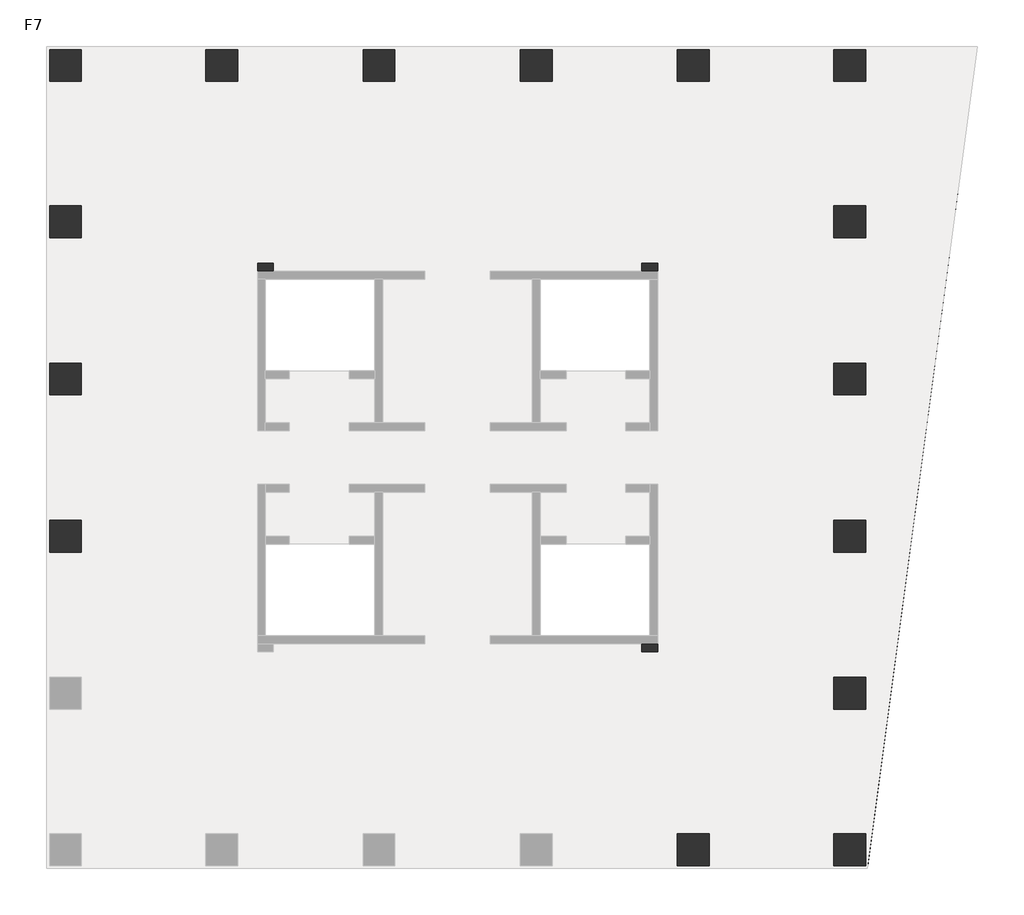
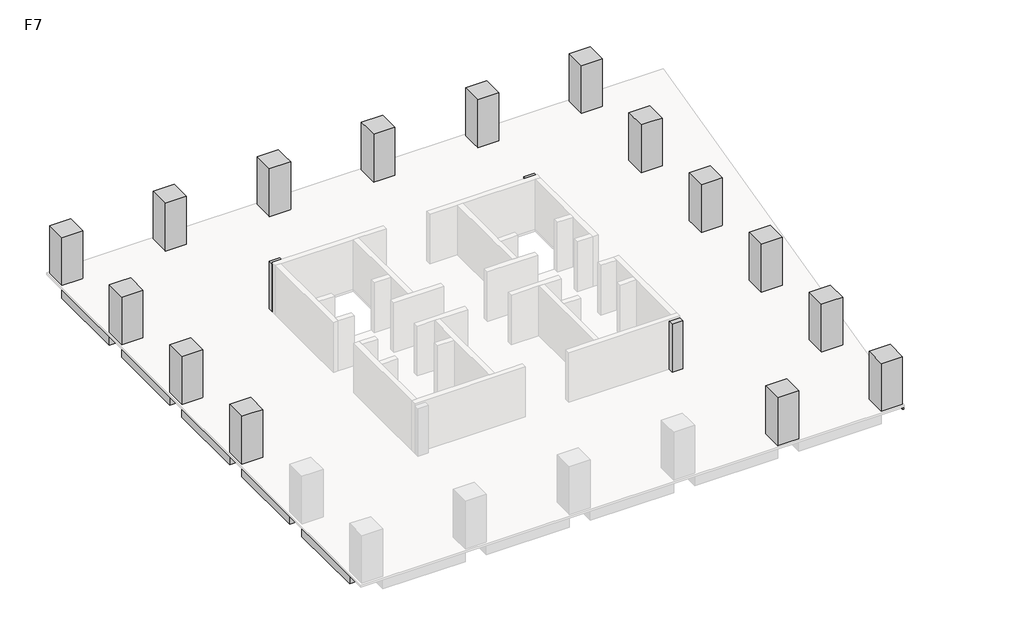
# One storey, part 2 of 2: 21 beams, 18 columns.
"""IFC4 building model written with IfcOpenShell, lengths in millimetres."""

from ifc_helpers import new_model, si_unit, frame, origin, place, context, project, spatial, polyline, outline, extrude, faceted_brep, element, save

model = new_model("IFC4")

# Units and contexts
model_context = context("Model", 3, world=origin())
ifc_project = project(units=[si_unit("LENGTHUNIT", "METRE", prefix="MILLI")], contexts=[model_context])

# Site, building, storey
site = spatial("IfcSite", under=ifc_project)
building = spatial("IfcBuilding", under=site)
storey = spatial("IfcBuildingStorey", under=building, Name="F7", Elevation=28000.0)

# Beams
placement = place(None, origin())
element("IfcBeam", 1, ObjectType="混凝土 - 矩形梁 : KL(5)-800x1000", at=placement, inside=storey, context=model_context, shape_type="SweptSolid", body=[
    extrude(outline(polyline([(25327.3257831, 27051.0498658), (25327.3257831, 26251.0498658), (19077.3257831, 26251.0498658), (19077.3257831, 27051.0498658), (25327.3257831, 27051.0498658)])), frame((0.0, 0.0, 27000.0), z_axis=(0.0, 0.0, 1.0), x_axis=(1.0, 0.0, 0.0)), (0.0, 0.0, 1.0), 840.0),
    extrude(outline(polyline([(-12472.6742169, 26251.0498658), (-12472.6742169, 27051.0498658), (-6222.6742169, 27051.0498658), (-6222.6742169, 26251.0498658), (-12472.6742169, 26251.0498658)])), frame((0.0, 0.0, 27000.0), z_axis=(0.0, 0.0, 1.0), x_axis=(1.0, 0.0, 0.0)), (0.0, 0.0, 1.0), 840.0),
    extrude(outline(polyline([(-4622.6742169, 26251.0498658), (-4622.6742169, 27051.0498658), (1677.3257831, 27051.0498658), (1677.3257831, 26251.0498658), (-4622.6742169, 26251.0498658)])), frame((0.0, 0.0, 27000.0), z_axis=(0.0, 0.0, 1.0), x_axis=(1.0, 0.0, 0.0)), (0.0, 0.0, 1.0), 840.0),
    extrude(outline(polyline([(3277.3257831, 26251.0498658), (3277.3257831, 27051.0498658), (9577.3257831, 27051.0498658), (9577.3257831, 26251.0498658), (3277.3257831, 26251.0498658)])), frame((0.0, 0.0, 27000.0), z_axis=(0.0, 0.0, 1.0), x_axis=(1.0, 0.0, 0.0)), (0.0, 0.0, 1.0), 840.0),
    extrude(outline(polyline([(11177.3257831, 26251.0498658), (11177.3257831, 27051.0498658), (17477.3257831, 27051.0498658), (17477.3257831, 26251.0498658), (11177.3257831, 26251.0498658)])), frame((0.0, 0.0, 27000.0), z_axis=(0.0, 0.0, 1.0), x_axis=(1.0, 0.0, 0.0)), (0.0, 0.0, 1.0), 840.0),
])
element("IfcBeam", 2, ObjectType="混凝土 - 矩形梁 : KL(5)-800x1000", at=placement, inside=storey, context=model_context, shape_type="Brep", body=[
    faceted_brep([(26927.3257831, 26251.0498658, 27000.0), (32422.0087099, 26251.0498658, 27000.0), (32422.0087099, 26251.0498658, 27840.0), (32018.4257091, 26251.0498658, 27840.0), (26927.3257831, 26251.0498658, 27840.0), (32422.0087099, 27051.0498658, 27000.0), (26927.3257831, 27051.0498658, 27000.0), (26927.3257831, 27051.0498658, 27840.0), (32422.0087099, 27051.0498658, 27840.0)], [[[0, 1, 2, 3, 4]], [[5, 1, 0, 6]], [[5, 6, 7, 8]], [[1, 5, 8, 2]], [[6, 0, 4, 7]], [[4, 3, 2, 8, 7]]]),
])
element("IfcBeam", 3, ObjectType="混凝土 - 矩形梁 : KL(5)-800x1000", at=placement, inside=storey, context=model_context, shape_type="Brep", body=[
    faceted_brep([(26127.3257831, -6098.9501342, 27000.0), (26127.3257831, -12348.9501342, 27000.0), (26127.3257831, -12348.9501342, 27840.0), (26127.3257831, -6098.9501342, 27840.0), (26927.3257831, -12348.9501342, 27000.0), (26927.3257831, -6098.9501342, 27000.0), (26927.3257831, -6098.9501342, 27840.0), (26927.3257831, -11700.7859463, 27840.0), (26927.3257831, -12348.9501342, 27840.0)], [[[0, 1, 2, 3]], [[4, 1, 0, 5]], [[4, 5, 6, 7, 8]], [[1, 4, 8, 2]], [[5, 0, 3, 6]], [[3, 2, 8, 7, 6]]]),
    faceted_brep([(26927.3257831, 25451.0498658, 27000.0), (26127.3257831, 25451.0498658, 27000.0), (26127.3257831, 25451.0498658, 27840.0), (26927.3257831, 25451.0498658, 27840.0), (26127.3257831, 19201.0498658, 27000.0), (26927.3257831, 19201.0498658, 27000.0), (26927.3257831, 19201.0498658, 27840.0), (26127.3257831, 19201.0498658, 27840.0)], [[[0, 1, 2, 3]], [[4, 5, 6, 7]], [[1, 4, 7, 2]], [[1, 0, 5, 4]], [[5, 0, 3, 6]], [[3, 2, 7, 6]]]),
    faceted_brep([(26927.3257831, 17601.0498658, 27000.0), (26127.3257831, 17601.0498658, 27000.0), (26127.3257831, 17601.0498658, 27840.0), (26927.3257831, 17601.0498658, 27840.0), (26127.3257831, 11301.0498658, 27000.0), (26927.3257831, 11301.0498658, 27000.0), (26927.3257831, 11301.0498658, 27840.0), (26127.3257831, 11301.0498658, 27840.0)], [[[0, 1, 2, 3]], [[4, 5, 6, 7]], [[1, 4, 7, 2]], [[1, 0, 5, 4]], [[5, 0, 3, 6]], [[3, 2, 7, 6]]]),
    faceted_brep([(26927.3257831, 9701.0498658, 27000.0), (26127.3257831, 9701.0498658, 27000.0), (26127.3257831, 9701.0498658, 27840.0), (26927.3257831, 9701.0498658, 27840.0), (26127.3257831, 3401.0498658, 27000.0), (26927.3257831, 3401.0498658, 27000.0), (26927.3257831, 3401.0498658, 27840.0), (26127.3257831, 3401.0498658, 27840.0)], [[[0, 1, 2, 3]], [[4, 5, 6, 7]], [[1, 4, 7, 2]], [[1, 0, 5, 4]], [[5, 0, 3, 6]], [[3, 2, 7, 6]]]),
    faceted_brep([(26927.3257831, 1801.0498658, 27000.0), (26127.3257831, 1801.0498658, 27000.0), (26127.3257831, 1801.0498658, 27840.0), (26927.3257831, 1801.0498658, 27840.0), (26127.3257831, -4498.9501342, 27000.0), (26927.3257831, -4498.9501342, 27000.0), (26927.3257831, -4498.9501342, 27840.0), (26127.3257831, -4498.9501342, 27840.0)], [[[0, 1, 2, 3]], [[4, 5, 6, 7]], [[1, 4, 7, 2]], [[1, 0, 5, 4]], [[5, 0, 3, 6]], [[3, 2, 7, 6]]]),
])
element("IfcBeam", 4, ObjectType="混凝土 - 矩形梁 : KL(5)-800x1000", at=placement, inside=storey, context=model_context, shape_type="SweptSolid", body=[
    extrude(outline(polyline([(-14072.6742169, 25451.0498658), (-13272.6742169, 25451.0498658), (-13272.6742169, 19201.0498658), (-14072.6742169, 19201.0498658), (-14072.6742169, 25451.0498658)])), frame((0.0, 0.0, 27000.0), z_axis=(0.0, 0.0, 1.0), x_axis=(1.0, 0.0, 0.0)), (0.0, 0.0, 1.0), 840.0),
    extrude(outline(polyline([(-13272.6742169, -12348.9501342), (-14072.6742169, -12348.9501342), (-14072.6742169, -6098.9501342), (-13272.6742169, -6098.9501342), (-13272.6742169, -12348.9501342)])), frame((0.0, 0.0, 27000.0), z_axis=(0.0, 0.0, 1.0), x_axis=(1.0, 0.0, 0.0)), (0.0, 0.0, 1.0), 840.0),
    extrude(outline(polyline([(-14072.6742169, 17601.0498658), (-13272.6742169, 17601.0498658), (-13272.6742169, 11301.0498658), (-14072.6742169, 11301.0498658), (-14072.6742169, 17601.0498658)])), frame((0.0, 0.0, 27000.0), z_axis=(0.0, 0.0, 1.0), x_axis=(1.0, 0.0, 0.0)), (0.0, 0.0, 1.0), 840.0),
    extrude(outline(polyline([(-14072.6742169, 9701.0498658), (-13272.6742169, 9701.0498658), (-13272.6742169, 3401.0498658), (-14072.6742169, 3401.0498658), (-14072.6742169, 9701.0498658)])), frame((0.0, 0.0, 27000.0), z_axis=(0.0, 0.0, 1.0), x_axis=(1.0, 0.0, 0.0)), (0.0, 0.0, 1.0), 840.0),
    extrude(outline(polyline([(-14072.6742169, 1801.0498658), (-13272.6742169, 1801.0498658), (-13272.6742169, -4498.9501342), (-14072.6742169, -4498.9501342), (-14072.6742169, 1801.0498658)])), frame((0.0, 0.0, 27000.0), z_axis=(0.0, 0.0, 1.0), x_axis=(1.0, 0.0, 0.0)), (0.0, 0.0, 1.0), 840.0),
])
element("IfcBeam", 5, ObjectType="混凝土 - 矩形梁 : L1-800x500", at=placement, inside=storey, context=model_context, shape_type="SweptSolid", body=[
    extrude(outline(polyline([(-12472.6742169, 2201.0498658), (-12472.6742169, 3001.0498658), (-3622.6742169, 3001.0498658), (-3622.6742169, 2201.0498658), (-12472.6742169, 2201.0498658)])), frame((0.0, 0.0, 27500.0), z_axis=(0.0, 0.0, 1.0), x_axis=(1.0, 0.0, 0.0)), (0.0, 0.0, 1.0), 340.0),
])
element("IfcBeam", 6, ObjectType="混凝土 - 矩形梁 : L1-800x500", at=placement, inside=storey, context=model_context, shape_type="SweptSolid", body=[
    extrude(outline(polyline([(-12472.6742169, 10101.0498658), (-12472.6742169, 10901.0498658), (-3622.6742169, 10901.0498658), (-3622.6742169, 10101.0498658), (-12472.6742169, 10101.0498658)])), frame((0.0, 0.0, 27500.0), z_axis=(0.0, 0.0, 1.0), x_axis=(1.0, 0.0, 0.0)), (0.0, 0.0, 1.0), 340.0),
])
element("IfcBeam", 7, ObjectType="混凝土 - 矩形梁 : L1-800x500", at=placement, inside=storey, context=model_context, shape_type="Brep", body=[
    faceted_brep([(-12472.6742169, 17789.85471, 27500.0), (-3622.6742169, 15588.3621727, 27500.0), (-3622.6742169, 15588.3621727, 27840.0), (-12472.6742169, 17789.85471, 27840.0), (-3173.6696907, 16301.0498658, 27500.0), (-3622.6742169, 16301.0498658, 27500.0), (-3622.6742169, 15901.0498658, 27500.0), (-12472.6742169, 18614.2350714, 27500.0), (-3746.9473979, 16443.6562607, 27500.0), (-12472.6742169, 18614.2350714, 27840.0), (-3746.9473979, 16443.6562607, 27840.0), (-3173.6696907, 16301.0498658, 27840.0), (-3622.6742169, 16301.0498658, 27840.0)], [[[0, 1, 2, 3]], [[4, 5, 6, 1, 0, 7, 8]], [[4, 8, 7, 9, 10, 11]], [[6, 5, 12, 2, 1]], [[5, 4, 11, 12]], [[7, 0, 3, 9]], [[3, 2, 12, 11, 10, 9]]]),
])
element("IfcBeam", 8, ObjectType="混凝土 - 矩形梁 : L1-800x500", at=placement, inside=storey, context=model_context, shape_type="SweptSolid", body=[
    extrude(outline(polyline([(-3173.6696907, 16301.0498658), (-3746.9473979, 16443.6562607), (-5661.5624638, 25451.0498658), (-4843.6893517, 25451.0498658), (-2898.7618154, 16301.0498658), (-3173.6696907, 16301.0498658)])), frame((0.0, 0.0, 27500.0), z_axis=(0.0, 0.0, 1.0), x_axis=(1.0, 0.0, 0.0)), (0.0, 0.0, 1.0), 340.0),
])
element("IfcBeam", 9, ObjectType="混凝土 - 矩形梁 : L1-800x500", at=placement, inside=storey, context=model_context, shape_type="SweptSolid", body=[
    extrude(outline(polyline([(2077.3257831, 25451.0498658), (2877.3257831, 25451.0498658), (2877.3257831, 15901.0498658), (2077.3257831, 15901.0498658), (2077.3257831, 25451.0498658)])), frame((0.0, 0.0, 27500.0), z_axis=(0.0, 0.0, 1.0), x_axis=(1.0, 0.0, 0.0)), (0.0, 0.0, 1.0), 340.0),
])
element("IfcBeam", 10, ObjectType="混凝土 - 矩形梁 : L1-800x500", at=placement, inside=storey, context=model_context, shape_type="SweptSolid", body=[
    extrude(outline(polyline([(9977.3257831, 25451.0498658), (10777.3257831, 25451.0498658), (10777.3257831, 15901.0498658), (9977.3257831, 15901.0498658), (9977.3257831, 25451.0498658)])), frame((0.0, 0.0, 27500.0), z_axis=(0.0, 0.0, 1.0), x_axis=(1.0, 0.0, 0.0)), (0.0, 0.0, 1.0), 340.0),
])
element("IfcBeam", 11, ObjectType="混凝土 - 矩形梁 : L1-800x500", at=placement, inside=storey, context=model_context, shape_type="Brep", body=[
    faceted_brep([(25327.3257831, -4687.7549784, 27500.0), (16477.3257831, -2486.2624411, 27500.0), (16477.3257831, -2486.2624411, 27840.0), (25327.3257831, -4687.7549784, 27840.0), (16028.3212569, -3198.9501342, 27500.0), (16477.3257831, -3198.9501342, 27500.0), (16477.3257831, -2798.9501342, 27500.0), (25327.3257831, -5512.1353397, 27500.0), (16601.5989641, -3341.556529, 27500.0), (25327.3257831, -5512.1353397, 27840.0), (16601.5989641, -3341.556529, 27840.0), (16028.3212569, -3198.9501342, 27840.0), (16477.3257831, -3198.9501342, 27840.0)], [[[0, 1, 2, 3]], [[4, 5, 6, 1, 0, 7, 8]], [[4, 8, 7, 9, 10, 11]], [[6, 5, 12, 2, 1]], [[5, 4, 11, 12]], [[7, 0, 3, 9]], [[3, 2, 12, 11, 10, 9]]]),
])
element("IfcBeam", 12, ObjectType="混凝土 - 矩形梁 : L1-800x500", at=placement, inside=storey, context=model_context, shape_type="SweptSolid", body=[
    extrude(outline(polyline([(16028.3212569, -3198.9501342), (16601.5989641, -3341.556529), (18516.21403, -12348.9501342), (17698.3409179, -12348.9501342), (15753.4133817, -3198.9501342), (16028.3212569, -3198.9501342)])), frame((0.0, 0.0, 27500.0), z_axis=(0.0, 0.0, 1.0), x_axis=(1.0, 0.0, 0.0)), (0.0, 0.0, 1.0), 340.0),
])
element("IfcBeam", 13, ObjectType="混凝土 - 矩形梁 : L1-800x500", at=placement, inside=storey, context=model_context, shape_type="SweptSolid", body=[
    extrude(outline(polyline([(25327.3257831, 3001.0498658), (25327.3257831, 2201.0498658), (16477.3257831, 2201.0498658), (16477.3257831, 3001.0498658), (25327.3257831, 3001.0498658)])), frame((0.0, 0.0, 27500.0), z_axis=(0.0, 0.0, 1.0), x_axis=(1.0, 0.0, 0.0)), (0.0, 0.0, 1.0), 340.0),
])
element("IfcBeam", 14, ObjectType="混凝土 - 矩形梁 : L1-800x500", at=placement, inside=storey, context=model_context, shape_type="SweptSolid", body=[
    extrude(outline(polyline([(25327.3257831, 10901.0498658), (25327.3257831, 10101.0498658), (16477.3257831, 10101.0498658), (16477.3257831, 10901.0498658), (25327.3257831, 10901.0498658)])), frame((0.0, 0.0, 27500.0), z_axis=(0.0, 0.0, 1.0), x_axis=(1.0, 0.0, 0.0)), (0.0, 0.0, 1.0), 340.0),
])
element("IfcBeam", 15, ObjectType="混凝土 - 矩形梁 : L1-800x500", at=placement, inside=storey, context=model_context, shape_type="Brep", body=[
    faceted_brep([(25327.3257831, 18610.6867312, 27500.0), (16590.8993897, 16393.3196262, 27500.0), (16227.3565337, 16301.0498658, 27500.0), (16227.3565337, 16301.0498658, 27840.0), (16590.8993897, 16393.3196262, 27840.0), (25327.3257831, 18610.6867312, 27840.0), (16477.3257831, 16301.0498658, 27500.0), (25327.3257831, 17785.3216299, 27500.0), (16477.3257831, 15539.1287365, 27500.0), (16477.3257831, 15901.0498658, 27500.0), (25327.3257831, 17785.3216299, 27840.0), (16477.3257831, 15539.1287365, 27840.0), (16477.3257831, 16301.0498658, 27840.0)], [[[0, 1, 2, 3, 4, 5]], [[6, 2, 1, 0, 7, 8, 9]], [[8, 7, 10, 11]], [[9, 8, 11, 12, 6]], [[2, 6, 12, 3]], [[7, 0, 5, 10]], [[5, 4, 3, 12, 11, 10]]]),
])
element("IfcBeam", 16, ObjectType="混凝土 - 矩形梁 : L1-800x500", at=placement, inside=storey, context=model_context, shape_type="SweptSolid", body=[
    extrude(outline(polyline([(16590.8993897, 16393.3196262), (16227.3565337, 16301.0498658), (15753.4133817, 16301.0498658), (17698.3409179, 25451.0498658), (18516.21403, 25451.0498658), (16590.8993897, 16393.3196262)])), frame((0.0, 0.0, 27500.0), z_axis=(0.0, 0.0, 1.0), x_axis=(1.0, 0.0, 0.0)), (0.0, 0.0, 1.0), 340.0),
])
element("IfcBeam", 17, ObjectType="混凝土 - 矩形梁 : L2-400x400", at=placement, inside=storey, context=model_context, shape_type="Brep", body=[
    faceted_brep([(32422.0087099, 26251.0498658, 27600.0), (27029.3257831, -13948.9501342, 27600.0), (26927.3257831, -13935.2672073, 27600.0), (26927.3257831, -11700.7859463, 27600.0), (27759.2793677, -5498.9501342, 27600.0), (27812.9379042, -5098.9501342, 27600.0), (28819.0354652, 2401.0498658, 27600.0), (28872.6940018, 2801.0498658, 27600.0), (29878.7915628, 10301.0498658, 27600.0), (29932.4500994, 10701.0498658, 27600.0), (30938.5476603, 18201.0498658, 27600.0), (30992.2061969, 18601.0498658, 27600.0), (32018.4257091, 26251.0498658, 27600.0), (32422.0087099, 26251.0498658, 27840.0), (27029.3257831, -13948.9501342, 27840.0), (32018.4257091, 26251.0498658, 27840.0), (26927.3257831, -13935.2672073, 27840.0), (26927.3257831, -12348.9501342, 27840.0), (26927.3257831, -11700.7859463, 27840.0), (27759.2793677, -5498.9501342, 27840.0), (27812.9379042, -5098.9501342, 27840.0), (28819.0354652, 2401.0498658, 27840.0), (28872.6940018, 2801.0498658, 27840.0), (29878.7915628, 10301.0498658, 27840.0), (29932.4500994, 10701.0498658, 27840.0), (30938.5476603, 18201.0498658, 27840.0), (30992.2061969, 18601.0498658, 27840.0)], [[[0, 1, 2, 3, 4, 5, 6, 7, 8, 9, 10, 11, 12]], [[1, 0, 13, 14]], [[0, 12, 15, 13]], [[3, 2, 16, 17, 18]], [[12, 11, 10, 9, 8, 7, 6, 5, 4, 3, 18, 19, 20, 21, 22, 23, 24, 25, 26, 15]], [[2, 1, 14, 16]], [[14, 13, 15, 26, 25, 24, 23, 22, 21, 20, 19, 18, 17, 16]]]),
])
element("IfcBeam", 18, ObjectType="混凝土 - 矩形梁 : L2-400x400", at=placement, inside=storey, context=model_context, shape_type="SweptSolid", body=[
    extrude(outline(polyline([(30938.5476603, 18201.0498658), (26927.3257831, 18201.0498658), (26927.3257831, 18601.0498658), (30992.2061969, 18601.0498658), (30938.5476603, 18201.0498658)])), frame((0.0, 0.0, 27600.0), z_axis=(0.0, 0.0, 1.0), x_axis=(1.0, 0.0, 0.0)), (0.0, 0.0, 1.0), 240.0),
])
element("IfcBeam", 19, ObjectType="混凝土 - 矩形梁 : L2-400x400", at=placement, inside=storey, context=model_context, shape_type="SweptSolid", body=[
    extrude(outline(polyline([(29878.7915628, 10301.0498658), (26927.3257831, 10301.0498658), (26927.3257831, 10701.0498658), (29932.4500994, 10701.0498658), (29878.7915628, 10301.0498658)])), frame((0.0, 0.0, 27600.0), z_axis=(0.0, 0.0, 1.0), x_axis=(1.0, 0.0, 0.0)), (0.0, 0.0, 1.0), 240.0),
])
element("IfcBeam", 20, ObjectType="混凝土 - 矩形梁 : L2-400x400", at=placement, inside=storey, context=model_context, shape_type="SweptSolid", body=[
    extrude(outline(polyline([(28819.0354652, 2401.0498658), (26927.3257831, 2401.0498658), (26927.3257831, 2801.0498658), (28872.6940018, 2801.0498658), (28819.0354652, 2401.0498658)])), frame((0.0, 0.0, 27600.0), z_axis=(0.0, 0.0, 1.0), x_axis=(1.0, 0.0, 0.0)), (0.0, 0.0, 1.0), 240.0),
])
element("IfcBeam", 21, ObjectType="混凝土 - 矩形梁 : L2-400x400", at=placement, inside=storey, context=model_context, shape_type="SweptSolid", body=[
    extrude(outline(polyline([(27759.2793677, -5498.9501342), (26927.3257831, -5498.9501342), (26927.3257831, -5098.9501342), (27812.9379042, -5098.9501342), (27759.2793677, -5498.9501342)])), frame((0.0, 0.0, 27600.0), z_axis=(0.0, 0.0, 1.0), x_axis=(1.0, 0.0, 0.0)), (0.0, 0.0, 1.0), 240.0),
])

# Columns
element("IfcColumn", 22, ObjectType="混凝土 - 矩形 - 柱 : Z1-1600x1600", at=placement, inside=storey, context=model_context, shape_type="SweptSolid", body=[
    extrude(outline(polyline([(-12472.6742169, 27051.0498658), (-12472.6742169, 25451.0498658), (-14072.6742169, 25451.0498658), (-14072.6742169, 27051.0498658), (-12472.6742169, 27051.0498658)])), frame((0.0, 0.0, 28000.0), z_axis=(0.0, 0.0, 1.0), x_axis=(1.0, 0.0, 0.0)), (0.0, 0.0, 1.0), 3840.0),
])
element("IfcColumn", 23, ObjectType="混凝土 - 矩形 - 柱 : Z1-1600x1600", at=placement, inside=storey, context=model_context, shape_type="Brep", body=[
    faceted_brep([(-4622.6742169, 27051.0498658, 28000.0), (-4622.6742169, 25451.0498658, 28000.0), (-6222.6742169, 25451.0498658, 28000.0), (-6222.6742169, 27051.0498658, 28000.0), (-4622.6742169, 27051.0498658, 31000.0), (-4622.6742169, 27051.0498658, 31840.0), (-4622.6742169, 26251.0498658, 31840.0), (-4622.6742169, 25451.0498658, 31840.0), (-6222.6742169, 25451.0498658, 31840.0), (-6222.6742169, 26251.0498658, 31840.0), (-6222.6742169, 27051.0498658, 31840.0), (-6222.6742169, 27051.0498658, 31000.0)], [[[0, 1, 2, 3]], [[1, 0, 4, 5, 6, 7]], [[2, 1, 7, 8]], [[3, 2, 8, 9, 10, 11]], [[0, 3, 11, 10, 5, 4]], [[7, 6, 5, 10, 9, 8]]]),
])
element("IfcColumn", 24, ObjectType="混凝土 - 矩形 - 柱 : Z1-1600x1600", at=placement, inside=storey, context=model_context, shape_type="Brep", body=[
    faceted_brep([(-12472.6742169, 19201.0498658, 28000.0), (-12472.6742169, 17601.0498658, 28000.0), (-14072.6742169, 17601.0498658, 28000.0), (-14072.6742169, 19201.0498658, 28000.0), (-12472.6742169, 19201.0498658, 31840.0), (-12472.6742169, 17601.0498658, 31840.0), (-13272.6742169, 17601.0498658, 31840.0), (-14072.6742169, 17601.0498658, 31840.0), (-14072.6742169, 17601.0498658, 31000.0), (-14072.6742169, 19201.0498658, 31840.0), (-14072.6742169, 19201.0498658, 31000.0), (-13272.6742169, 19201.0498658, 31840.0)], [[[0, 1, 2, 3]], [[1, 0, 4, 5]], [[2, 1, 5, 6, 7, 8]], [[3, 2, 8, 7, 9, 10]], [[0, 3, 10, 9, 11, 4]], [[5, 4, 11, 9, 7, 6]]]),
])
element("IfcColumn", 25, ObjectType="混凝土 - 矩形 - 柱 : Z1-1600x1600", at=placement, inside=storey, context=model_context, shape_type="Brep", body=[
    faceted_brep([(-12472.6742169, 11301.0498658, 28000.0), (-12472.6742169, 9701.0498658, 28000.0), (-14072.6742169, 9701.0498658, 28000.0), (-14072.6742169, 11301.0498658, 28000.0), (-12472.6742169, 11301.0498658, 31840.0), (-12472.6742169, 9701.0498658, 31840.0), (-13272.6742169, 9701.0498658, 31840.0), (-14072.6742169, 9701.0498658, 31840.0), (-14072.6742169, 9701.0498658, 31000.0), (-14072.6742169, 11301.0498658, 31840.0), (-14072.6742169, 11301.0498658, 31000.0), (-13272.6742169, 11301.0498658, 31840.0)], [[[0, 1, 2, 3]], [[1, 0, 4, 5]], [[2, 1, 5, 6, 7, 8]], [[3, 2, 8, 7, 9, 10]], [[0, 3, 10, 9, 11, 4]], [[5, 4, 11, 9, 7, 6]]]),
])
element("IfcColumn", 26, ObjectType="混凝土 - 矩形 - 柱 : Z1-1600x1600", at=placement, inside=storey, context=model_context, shape_type="Brep", body=[
    faceted_brep([(-12472.6742169, 3401.0498658, 28000.0), (-12472.6742169, 1801.0498658, 28000.0), (-14072.6742169, 1801.0498658, 28000.0), (-14072.6742169, 3401.0498658, 28000.0), (-12472.6742169, 3401.0498658, 31840.0), (-12472.6742169, 1801.0498658, 31840.0), (-13272.6742169, 1801.0498658, 31840.0), (-14072.6742169, 1801.0498658, 31840.0), (-14072.6742169, 1801.0498658, 31000.0), (-14072.6742169, 3401.0498658, 31840.0), (-14072.6742169, 3401.0498658, 31000.0), (-13272.6742169, 3401.0498658, 31840.0)], [[[0, 1, 2, 3]], [[1, 0, 4, 5]], [[2, 1, 5, 6, 7, 8]], [[3, 2, 8, 7, 9, 10]], [[0, 3, 10, 9, 11, 4]], [[5, 4, 11, 9, 7, 6]]]),
])
element("IfcColumn", 27, ObjectType="混凝土 - 矩形 - 柱 : Z1-1600x1600", at=placement, inside=storey, context=model_context, shape_type="SweptSolid", body=[
    extrude(outline(polyline([(25327.3257831, 27051.0498658), (26927.3257831, 27051.0498658), (26927.3257831, 25451.0498658), (25327.3257831, 25451.0498658), (25327.3257831, 27051.0498658)])), frame((0.0, 0.0, 28000.0), z_axis=(0.0, 0.0, 1.0), x_axis=(1.0, 0.0, 0.0)), (0.0, 0.0, 1.0), 3840.0),
])
element("IfcColumn", 28, ObjectType="混凝土 - 矩形 - 柱 : Z1-1600x1600", at=placement, inside=storey, context=model_context, shape_type="Brep", body=[
    faceted_brep([(25327.3257831, 19201.0498658, 28000.0), (26927.3257831, 19201.0498658, 28000.0), (26927.3257831, 17601.0498658, 28000.0), (25327.3257831, 17601.0498658, 28000.0), (25327.3257831, 17601.0498658, 31840.0), (25327.3257831, 19201.0498658, 31840.0), (26927.3257831, 17601.0498658, 31000.0), (26927.3257831, 17601.0498658, 31840.0), (26127.3257831, 17601.0498658, 31840.0), (26927.3257831, 19201.0498658, 31000.0), (26927.3257831, 19201.0498658, 31840.0), (26127.3257831, 19201.0498658, 31840.0)], [[[0, 1, 2, 3]], [[0, 3, 4, 5]], [[3, 2, 6, 7, 8, 4]], [[2, 1, 9, 10, 7, 6]], [[1, 0, 5, 11, 10, 9]], [[5, 4, 8, 7, 10, 11]]]),
])
element("IfcColumn", 29, ObjectType="混凝土 - 矩形 - 柱 : Z1-1600x1600", at=placement, inside=storey, context=model_context, shape_type="Brep", body=[
    faceted_brep([(25327.3257831, 11301.0498658, 28000.0), (26927.3257831, 11301.0498658, 28000.0), (26927.3257831, 9701.0498658, 28000.0), (25327.3257831, 9701.0498658, 28000.0), (25327.3257831, 9701.0498658, 31840.0), (25327.3257831, 11301.0498658, 31840.0), (26927.3257831, 9701.0498658, 31000.0), (26927.3257831, 9701.0498658, 31840.0), (26127.3257831, 9701.0498658, 31840.0), (26927.3257831, 11301.0498658, 31000.0), (26927.3257831, 11301.0498658, 31840.0), (26127.3257831, 11301.0498658, 31840.0)], [[[0, 1, 2, 3]], [[0, 3, 4, 5]], [[3, 2, 6, 7, 8, 4]], [[2, 1, 9, 10, 7, 6]], [[1, 0, 5, 11, 10, 9]], [[5, 4, 8, 7, 10, 11]]]),
])
element("IfcColumn", 30, ObjectType="混凝土 - 矩形 - 柱 : Z1-1600x1600", at=placement, inside=storey, context=model_context, shape_type="Brep", body=[
    faceted_brep([(25327.3257831, 3401.0498658, 28000.0), (26927.3257831, 3401.0498658, 28000.0), (26927.3257831, 1801.0498658, 28000.0), (25327.3257831, 1801.0498658, 28000.0), (25327.3257831, 1801.0498658, 31840.0), (25327.3257831, 3401.0498658, 31840.0), (26927.3257831, 1801.0498658, 31000.0), (26927.3257831, 1801.0498658, 31840.0), (26127.3257831, 1801.0498658, 31840.0), (26927.3257831, 3401.0498658, 31000.0), (26927.3257831, 3401.0498658, 31840.0), (26127.3257831, 3401.0498658, 31840.0)], [[[0, 1, 2, 3]], [[0, 3, 4, 5]], [[3, 2, 6, 7, 8, 4]], [[2, 1, 9, 10, 7, 6]], [[1, 0, 5, 11, 10, 9]], [[5, 4, 8, 7, 10, 11]]]),
])
element("IfcColumn", 31, ObjectType="混凝土 - 矩形 - 柱 : Z1-1600x1600", at=placement, inside=storey, context=model_context, shape_type="Brep", body=[
    faceted_brep([(25327.3257831, -4498.9501342, 28000.0), (26927.3257831, -4498.9501342, 28000.0), (26927.3257831, -6098.9501342, 28000.0), (25327.3257831, -6098.9501342, 28000.0), (25327.3257831, -6098.9501342, 31840.0), (25327.3257831, -4498.9501342, 31840.0), (26927.3257831, -6098.9501342, 31000.0), (26927.3257831, -6098.9501342, 31840.0), (26127.3257831, -6098.9501342, 31840.0), (26927.3257831, -4498.9501342, 31000.0), (26927.3257831, -4498.9501342, 31840.0), (26127.3257831, -4498.9501342, 31840.0)], [[[0, 1, 2, 3]], [[0, 3, 4, 5]], [[3, 2, 6, 7, 8, 4]], [[2, 1, 9, 10, 7, 6]], [[1, 0, 5, 11, 10, 9]], [[5, 4, 8, 7, 10, 11]]]),
])
element("IfcColumn", 32, ObjectType="混凝土 - 矩形 - 柱 : Z1-1600x1600", at=placement, inside=storey, context=model_context, shape_type="SweptSolid", body=[
    extrude(outline(polyline([(25327.3257831, -12348.9501342), (26927.3257831, -12348.9501342), (26927.3257831, -13948.9501342), (25327.3257831, -13948.9501342), (25327.3257831, -12348.9501342)])), frame((0.0, 0.0, 28000.0), z_axis=(0.0, 0.0, 1.0), x_axis=(1.0, 0.0, 0.0)), (0.0, 0.0, 1.0), 3840.0),
])
element("IfcColumn", 33, ObjectType="混凝土 - 矩形 - 柱 : Z1-1600x1600", at=placement, inside=storey, context=model_context, shape_type="Brep", body=[
    faceted_brep([(3277.3257831, 27051.0498658, 28000.0), (3277.3257831, 25451.0498658, 28000.0), (1677.3257831, 25451.0498658, 28000.0), (1677.3257831, 27051.0498658, 28000.0), (3277.3257831, 27051.0498658, 31000.0), (3277.3257831, 27051.0498658, 31840.0), (3277.3257831, 26251.0498658, 31840.0), (3277.3257831, 25451.0498658, 31840.0), (1677.3257831, 25451.0498658, 31840.0), (1677.3257831, 26251.0498658, 31840.0), (1677.3257831, 27051.0498658, 31840.0), (1677.3257831, 27051.0498658, 31000.0)], [[[0, 1, 2, 3]], [[1, 0, 4, 5, 6, 7]], [[2, 1, 7, 8]], [[3, 2, 8, 9, 10, 11]], [[0, 3, 11, 10, 5, 4]], [[7, 6, 5, 10, 9, 8]]]),
])
element("IfcColumn", 34, ObjectType="混凝土 - 矩形 - 柱 : Z1-1600x1600", at=placement, inside=storey, context=model_context, shape_type="Brep", body=[
    faceted_brep([(11177.3257831, 27051.0498658, 28000.0), (11177.3257831, 25451.0498658, 28000.0), (9577.3257831, 25451.0498658, 28000.0), (9577.3257831, 27051.0498658, 28000.0), (11177.3257831, 27051.0498658, 31000.0), (11177.3257831, 27051.0498658, 31840.0), (11177.3257831, 26251.0498658, 31840.0), (11177.3257831, 25451.0498658, 31840.0), (9577.3257831, 25451.0498658, 31840.0), (9577.3257831, 26251.0498658, 31840.0), (9577.3257831, 27051.0498658, 31840.0), (9577.3257831, 27051.0498658, 31000.0)], [[[0, 1, 2, 3]], [[1, 0, 4, 5, 6, 7]], [[2, 1, 7, 8]], [[3, 2, 8, 9, 10, 11]], [[0, 3, 11, 10, 5, 4]], [[7, 6, 5, 10, 9, 8]]]),
])
element("IfcColumn", 35, ObjectType="混凝土 - 矩形 - 柱 : Z1-1600x1600", at=placement, inside=storey, context=model_context, shape_type="Brep", body=[
    faceted_brep([(19077.3257831, 27051.0498658, 28000.0), (19077.3257831, 25451.0498658, 28000.0), (17477.3257831, 25451.0498658, 28000.0), (17477.3257831, 27051.0498658, 28000.0), (19077.3257831, 27051.0498658, 31000.0), (19077.3257831, 27051.0498658, 31840.0), (19077.3257831, 26251.0498658, 31840.0), (19077.3257831, 25451.0498658, 31840.0), (17477.3257831, 25451.0498658, 31840.0), (17477.3257831, 26251.0498658, 31840.0), (17477.3257831, 27051.0498658, 31840.0), (17477.3257831, 27051.0498658, 31000.0)], [[[0, 1, 2, 3]], [[1, 0, 4, 5, 6, 7]], [[2, 1, 7, 8]], [[3, 2, 8, 9, 10, 11]], [[0, 3, 11, 10, 5, 4]], [[7, 6, 5, 10, 9, 8]]]),
])
element("IfcColumn", 36, ObjectType="混凝土 - 矩形 - 柱 : Z1-1600x1600", at=placement, inside=storey, context=model_context, shape_type="Brep", body=[
    faceted_brep([(19077.3257831, -12348.9501342, 28000.0), (19077.3257831, -13948.9501342, 28000.0), (17477.3257831, -13948.9501342, 28000.0), (17477.3257831, -12348.9501342, 28000.0), (19077.3257831, -12348.9501342, 31840.0), (19077.3257831, -13148.9501342, 31840.0), (19077.3257831, -13948.9501342, 31840.0), (19077.3257831, -13948.9501342, 31000.0), (17477.3257831, -13948.9501342, 31840.0), (17477.3257831, -13948.9501342, 31000.0), (17477.3257831, -13148.9501342, 31840.0), (17477.3257831, -12348.9501342, 31840.0)], [[[0, 1, 2, 3]], [[1, 0, 4, 5, 6, 7]], [[2, 1, 7, 6, 8, 9]], [[3, 2, 9, 8, 10, 11]], [[0, 3, 11, 4]], [[6, 5, 4, 11, 10, 8]]]),
])
element("IfcColumn", 37, ObjectType="混凝土 - 矩形 - 柱 : Z2-800x800", at=placement, inside=storey, context=model_context, shape_type="SweptSolid", body=[
    extrude(outline(polyline([(-3622.6742169, 16301.0498658), (-2822.6742169, 16301.0498658), (-2822.6742169, 15901.0498658), (-3622.6742169, 15901.0498658), (-3622.6742169, 16301.0498658)])), frame((0.0, 0.0, 28000.0), z_axis=(0.0, 0.0, 1.0), x_axis=(1.0, 0.0, 0.0)), (0.0, 0.0, 1.0), 3840.0),
])
element("IfcColumn", 38, ObjectType="混凝土 - 矩形 - 柱 : Z2-800x800", at=placement, inside=storey, context=model_context, shape_type="SweptSolid", body=[
    extrude(outline(polyline([(16477.3257831, -3198.9501342), (15677.3257831, -3198.9501342), (15677.3257831, -2798.9501342), (16477.3257831, -2798.9501342), (16477.3257831, -3198.9501342)])), frame((0.0, 0.0, 28000.0), z_axis=(0.0, 0.0, 1.0), x_axis=(1.0, 0.0, 0.0)), (0.0, 0.0, 1.0), 3840.0),
])
element("IfcColumn", 39, ObjectType="混凝土 - 矩形 - 柱 : Z2-800x800", at=placement, inside=storey, context=model_context, shape_type="SweptSolid", body=[
    extrude(outline(polyline([(15677.3257831, 16301.0498658), (16477.3257831, 16301.0498658), (16477.3257831, 15901.0498658), (15677.3257831, 15901.0498658), (15677.3257831, 16301.0498658)])), frame((0.0, 0.0, 28000.0), z_axis=(0.0, 0.0, 1.0), x_axis=(1.0, 0.0, 0.0)), (0.0, 0.0, 1.0), 3840.0),
])

save(model, "model.ifc")
